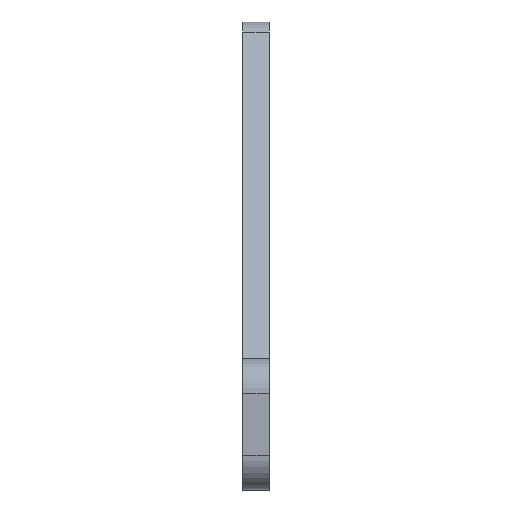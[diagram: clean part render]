
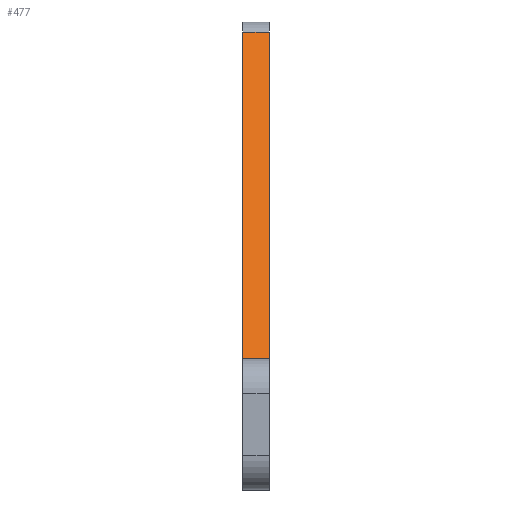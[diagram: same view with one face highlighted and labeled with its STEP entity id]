
A CAD part, left-side view. The second image highlights one B-rep face of the part: STEP entity #477.
In plain terms, the highlighted planar face has unit normal (-0.707, 0, 0.707).
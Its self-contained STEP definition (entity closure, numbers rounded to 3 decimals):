
#21 = CARTESIAN_POINT ( 'NONE',  ( 35.893, 3., 7.239 ) ) ;
#44 = DIRECTION ( 'NONE',  ( 0., -1., 0. ) ) ;
#47 = CARTESIAN_POINT ( 'NONE',  ( 73.295, 0., 44.64 ) ) ;
#52 = CARTESIAN_POINT ( 'NONE',  ( 73.295, 3., 44.64 ) ) ;
#63 = LINE ( 'NONE', #623, #627 ) ;
#67 = VECTOR ( 'NONE', #44, 1000. ) ;
#73 = DIRECTION ( 'NONE',  ( 0.707, 0., 0.707 ) ) ;
#123 = DIRECTION ( 'NONE',  ( 0.707, 0., 0.707 ) ) ;
#143 = CARTESIAN_POINT ( 'NONE',  ( 35.893, 3., 7.239 ) ) ;
#149 = ORIENTED_EDGE ( 'NONE', *, *, #232, .F. ) ;
#187 = CARTESIAN_POINT ( 'NONE',  ( 55.566, 0., 26.911 ) ) ;
#220 = LINE ( 'NONE', #371, #67 ) ;
#227 = VERTEX_POINT ( 'NONE', #21 ) ;
#232 = EDGE_CURVE ( 'NONE', #227, #662, #63, .T. ) ;
#246 = EDGE_CURVE ( 'NONE', #695, #595, #704, .T. ) ;
#253 = DIRECTION ( 'NONE',  ( 0.707, 0., -0.707 ) ) ;
#290 = FACE_OUTER_BOUND ( 'NONE', #364, .T. ) ;
#329 = ORIENTED_EDGE ( 'NONE', *, *, #561, .F. ) ;
#364 = EDGE_LOOP ( 'NONE', ( #651, #329, #149, #404 ) ) ;
#371 = CARTESIAN_POINT ( 'NONE',  ( 73.295, 3., 44.64 ) ) ;
#404 = ORIENTED_EDGE ( 'NONE', *, *, #484, .T. ) ;
#410 = VECTOR ( 'NONE', #524, 1000. ) ;
#477 = ADVANCED_FACE ( 'NONE', ( #290 ), #635, .F. ) ;
#484 = EDGE_CURVE ( 'NONE', #227, #695, #689, .T. ) ;
#524 = DIRECTION ( 'NONE',  ( 0., -1., 0. ) ) ;
#550 = VECTOR ( 'NONE', #73, 1000. ) ;
#552 = AXIS2_PLACEMENT_3D ( 'NONE', #583, #253, #637 ) ;
#561 = EDGE_CURVE ( 'NONE', #662, #595, #220, .T. ) ;
#583 = CARTESIAN_POINT ( 'NONE',  ( 55.566, 3., 26.911 ) ) ;
#595 = VERTEX_POINT ( 'NONE', #47 ) ;
#623 = CARTESIAN_POINT ( 'NONE',  ( 55.566, 3., 26.911 ) ) ;
#627 = VECTOR ( 'NONE', #123, 1000. ) ;
#635 = PLANE ( 'NONE',  #552 ) ;
#637 = DIRECTION ( 'NONE',  ( -0.707, 0., -0.707 ) ) ;
#651 = ORIENTED_EDGE ( 'NONE', *, *, #246, .T. ) ;
#655 = CARTESIAN_POINT ( 'NONE',  ( 35.893, 0., 7.239 ) ) ;
#662 = VERTEX_POINT ( 'NONE', #52 ) ;
#689 = LINE ( 'NONE', #143, #410 ) ;
#695 = VERTEX_POINT ( 'NONE', #655 ) ;
#704 = LINE ( 'NONE', #187, #550 ) ;
